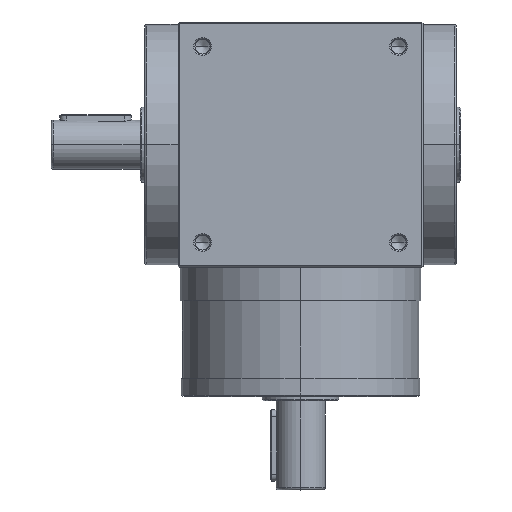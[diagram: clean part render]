
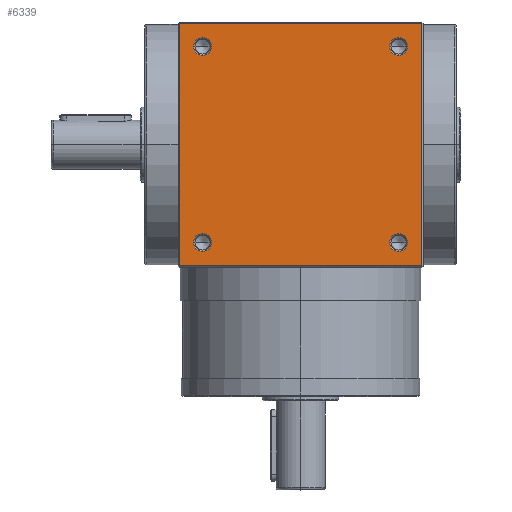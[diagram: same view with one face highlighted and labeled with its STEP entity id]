
A CAD part, top view. The second image highlights one B-rep face of the part: STEP entity #6339.
In plain terms, the highlighted planar face has unit normal (0, 0, 1).
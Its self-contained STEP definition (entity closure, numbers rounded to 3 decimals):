
#56 = CARTESIAN_POINT ( 'NONE',  ( 40.1, -44., 55. ) ) ;
#207 = LINE ( 'NONE', #2053, #7862 ) ;
#214 = CARTESIAN_POINT ( 'NONE',  ( -40.1, 44., 55. ) ) ;
#304 = ORIENTED_EDGE ( 'NONE', *, *, #5785, .T. ) ;
#348 = VERTEX_POINT ( 'NONE', #5764 ) ;
#790 = LINE ( 'NONE', #1056, #8933 ) ;
#832 = CARTESIAN_POINT ( 'NONE',  ( 47.9, 44., 55. ) ) ;
#929 = EDGE_CURVE ( 'NONE', #4128, #3823, #4437, .T. ) ;
#978 = CARTESIAN_POINT ( 'NONE',  ( -54.5, -54.5, 55. ) ) ;
#1056 = CARTESIAN_POINT ( 'NONE',  ( 0., 54.5, 55. ) ) ;
#1085 = DIRECTION ( 'NONE',  ( -1., 0., 0. ) ) ;
#1177 = DIRECTION ( 'NONE',  ( 0., 0., -1. ) ) ;
#1309 = CARTESIAN_POINT ( 'NONE',  ( 44., -44., 55. ) ) ;
#1531 = DIRECTION ( 'NONE',  ( 0., 0., -1. ) ) ;
#1544 = DIRECTION ( 'NONE',  ( 0., 0., -1. ) ) ;
#1616 = LINE ( 'NONE', #6677, #9529 ) ;
#1631 = DIRECTION ( 'NONE',  ( 0., 0., -1. ) ) ;
#1954 = VERTEX_POINT ( 'NONE', #3054 ) ;
#2015 = CARTESIAN_POINT ( 'NONE',  ( 44., -44., 55. ) ) ;
#2053 = CARTESIAN_POINT ( 'NONE',  ( 54.5, 0., 55. ) ) ;
#2086 = DIRECTION ( 'NONE',  ( 1., 0., 0. ) ) ;
#2088 = DIRECTION ( 'NONE',  ( 0., 0., -1. ) ) ;
#2110 = FACE_OUTER_BOUND ( 'NONE', #7940, .T. ) ;
#2128 = VERTEX_POINT ( 'NONE', #978 ) ;
#2149 = ORIENTED_EDGE ( 'NONE', *, *, #8889, .T. ) ;
#2158 = ORIENTED_EDGE ( 'NONE', *, *, #3199, .T. ) ;
#2170 = AXIS2_PLACEMENT_3D ( 'NONE', #6075, #1544, #6272 ) ;
#2215 = VERTEX_POINT ( 'NONE', #56 ) ;
#2287 = CIRCLE ( 'NONE', #8358, 3.9 ) ;
#2717 = ORIENTED_EDGE ( 'NONE', *, *, #6866, .T. ) ;
#2773 = AXIS2_PLACEMENT_3D ( 'NONE', #6509, #6438, #8849 ) ;
#2777 = VERTEX_POINT ( 'NONE', #832 ) ;
#2790 = DIRECTION ( 'NONE',  ( -1., 0., 0. ) ) ;
#2847 = DIRECTION ( 'NONE',  ( -1., 0., 0. ) ) ;
#2915 = VERTEX_POINT ( 'NONE', #3318 ) ;
#3054 = CARTESIAN_POINT ( 'NONE',  ( 54.5, -54.5, 55. ) ) ;
#3154 = CARTESIAN_POINT ( 'NONE',  ( 44., 44., 55. ) ) ;
#3199 = EDGE_CURVE ( 'NONE', #4577, #2215, #5160, .T. ) ;
#3318 = CARTESIAN_POINT ( 'NONE',  ( -40.1, -44., 55. ) ) ;
#3502 = VECTOR ( 'NONE', #3884, 1000. ) ;
#3717 = DIRECTION ( 'NONE',  ( 0., 0., -1. ) ) ;
#3793 = EDGE_CURVE ( 'NONE', #8465, #2915, #4640, .T. ) ;
#3823 = VERTEX_POINT ( 'NONE', #6703 ) ;
#3854 = ORIENTED_EDGE ( 'NONE', *, *, #7590, .T. ) ;
#3884 = DIRECTION ( 'NONE',  ( 0., -1., 0. ) ) ;
#3954 = CARTESIAN_POINT ( 'NONE',  ( -54.5, 0., 55. ) ) ;
#3966 = AXIS2_PLACEMENT_3D ( 'NONE', #9561, #1177, #5037 ) ;
#4025 = EDGE_LOOP ( 'NONE', ( #304, #8523 ) ) ;
#4128 = VERTEX_POINT ( 'NONE', #214 ) ;
#4437 = CIRCLE ( 'NONE', #6523, 3.9 ) ;
#4577 = VERTEX_POINT ( 'NONE', #6914 ) ;
#4597 = ORIENTED_EDGE ( 'NONE', *, *, #4642, .T. ) ;
#4610 = CARTESIAN_POINT ( 'NONE',  ( -44., 44., 55. ) ) ;
#4615 = CIRCLE ( 'NONE', #8382, 3.9 ) ;
#4640 = CIRCLE ( 'NONE', #6803, 3.9 ) ;
#4642 = EDGE_CURVE ( 'NONE', #5903, #2128, #5783, .T. ) ;
#5037 = DIRECTION ( 'NONE',  ( -1., 0., 0. ) ) ;
#5160 = CIRCLE ( 'NONE', #9107, 3.9 ) ;
#5328 = ORIENTED_EDGE ( 'NONE', *, *, #6109, .T. ) ;
#5344 = ORIENTED_EDGE ( 'NONE', *, *, #7768, .T. ) ;
#5435 = DIRECTION ( 'NONE',  ( -1., 0., 0. ) ) ;
#5506 = DIRECTION ( 'NONE',  ( -1., 0., 0. ) ) ;
#5660 = CARTESIAN_POINT ( 'NONE',  ( 54.5, 54.5, 55. ) ) ;
#5724 = CIRCLE ( 'NONE', #8409, 3.9 ) ;
#5764 = CARTESIAN_POINT ( 'NONE',  ( 40.1, 44., 55. ) ) ;
#5783 = LINE ( 'NONE', #3954, #3502 ) ;
#5785 = EDGE_CURVE ( 'NONE', #2915, #8465, #6342, .T. ) ;
#5818 = DIRECTION ( 'NONE',  ( 0., 1., 0. ) ) ;
#5838 = CARTESIAN_POINT ( 'NONE',  ( -54.5, 54.5, 55. ) ) ;
#5896 = CARTESIAN_POINT ( 'NONE',  ( -47.9, -44., 55. ) ) ;
#5903 = VERTEX_POINT ( 'NONE', #5838 ) ;
#6075 = CARTESIAN_POINT ( 'NONE',  ( -44., 44., 55. ) ) ;
#6109 = EDGE_CURVE ( 'NONE', #348, #2777, #5724, .T. ) ;
#6272 = DIRECTION ( 'NONE',  ( -1., 0., 0. ) ) ;
#6339 = ADVANCED_FACE ( 'NONE', ( #2110, #7872, #6567, #8377, #6435 ), #6498, .F. ) ;
#6342 = CIRCLE ( 'NONE', #2773, 3.9 ) ;
#6435 = FACE_BOUND ( 'NONE', #6462, .T. ) ;
#6438 = DIRECTION ( 'NONE',  ( 0., 0., -1. ) ) ;
#6462 = EDGE_LOOP ( 'NONE', ( #9093, #7990 ) ) ;
#6498 = PLANE ( 'NONE',  #3966 ) ;
#6509 = CARTESIAN_POINT ( 'NONE',  ( -44., -44., 55. ) ) ;
#6523 = AXIS2_PLACEMENT_3D ( 'NONE', #4610, #7719, #5435 ) ;
#6567 = FACE_BOUND ( 'NONE', #4025, .T. ) ;
#6677 = CARTESIAN_POINT ( 'NONE',  ( 0., -54.5, 55. ) ) ;
#6703 = CARTESIAN_POINT ( 'NONE',  ( -47.9, 44., 55. ) ) ;
#6739 = DIRECTION ( 'NONE',  ( 0., 0., -1. ) ) ;
#6746 = EDGE_CURVE ( 'NONE', #1954, #8686, #207, .T. ) ;
#6803 = AXIS2_PLACEMENT_3D ( 'NONE', #9678, #6739, #9748 ) ;
#6866 = EDGE_CURVE ( 'NONE', #2128, #1954, #1616, .T. ) ;
#6914 = CARTESIAN_POINT ( 'NONE',  ( 47.9, -44., 55. ) ) ;
#6979 = DIRECTION ( 'NONE',  ( -1., 0., 0. ) ) ;
#7590 = EDGE_CURVE ( 'NONE', #2777, #348, #4615, .T. ) ;
#7719 = DIRECTION ( 'NONE',  ( 0., 0., -1. ) ) ;
#7768 = EDGE_CURVE ( 'NONE', #8686, #5903, #790, .T. ) ;
#7796 = CARTESIAN_POINT ( 'NONE',  ( 44., 44., 55. ) ) ;
#7801 = EDGE_LOOP ( 'NONE', ( #2158, #2149 ) ) ;
#7862 = VECTOR ( 'NONE', #5818, 1000. ) ;
#7872 = FACE_BOUND ( 'NONE', #7801, .T. ) ;
#7940 = EDGE_LOOP ( 'NONE', ( #4597, #2717, #9196, #5344 ) ) ;
#7990 = ORIENTED_EDGE ( 'NONE', *, *, #9840, .T. ) ;
#8358 = AXIS2_PLACEMENT_3D ( 'NONE', #2015, #2088, #2847 ) ;
#8377 = FACE_BOUND ( 'NONE', #8660, .T. ) ;
#8382 = AXIS2_PLACEMENT_3D ( 'NONE', #3154, #1531, #5506 ) ;
#8409 = AXIS2_PLACEMENT_3D ( 'NONE', #7796, #1631, #6979 ) ;
#8465 = VERTEX_POINT ( 'NONE', #5896 ) ;
#8523 = ORIENTED_EDGE ( 'NONE', *, *, #3793, .T. ) ;
#8660 = EDGE_LOOP ( 'NONE', ( #3854, #5328 ) ) ;
#8686 = VERTEX_POINT ( 'NONE', #5660 ) ;
#8756 = CIRCLE ( 'NONE', #2170, 3.9 ) ;
#8849 = DIRECTION ( 'NONE',  ( -1., 0., 0. ) ) ;
#8889 = EDGE_CURVE ( 'NONE', #2215, #4577, #2287, .T. ) ;
#8933 = VECTOR ( 'NONE', #1085, 1000. ) ;
#9093 = ORIENTED_EDGE ( 'NONE', *, *, #929, .T. ) ;
#9107 = AXIS2_PLACEMENT_3D ( 'NONE', #1309, #3717, #2790 ) ;
#9196 = ORIENTED_EDGE ( 'NONE', *, *, #6746, .T. ) ;
#9529 = VECTOR ( 'NONE', #2086, 1000. ) ;
#9561 = CARTESIAN_POINT ( 'NONE',  ( 0., 0., 55. ) ) ;
#9678 = CARTESIAN_POINT ( 'NONE',  ( -44., -44., 55. ) ) ;
#9748 = DIRECTION ( 'NONE',  ( -1., 0., 0. ) ) ;
#9840 = EDGE_CURVE ( 'NONE', #3823, #4128, #8756, .T. ) ;
